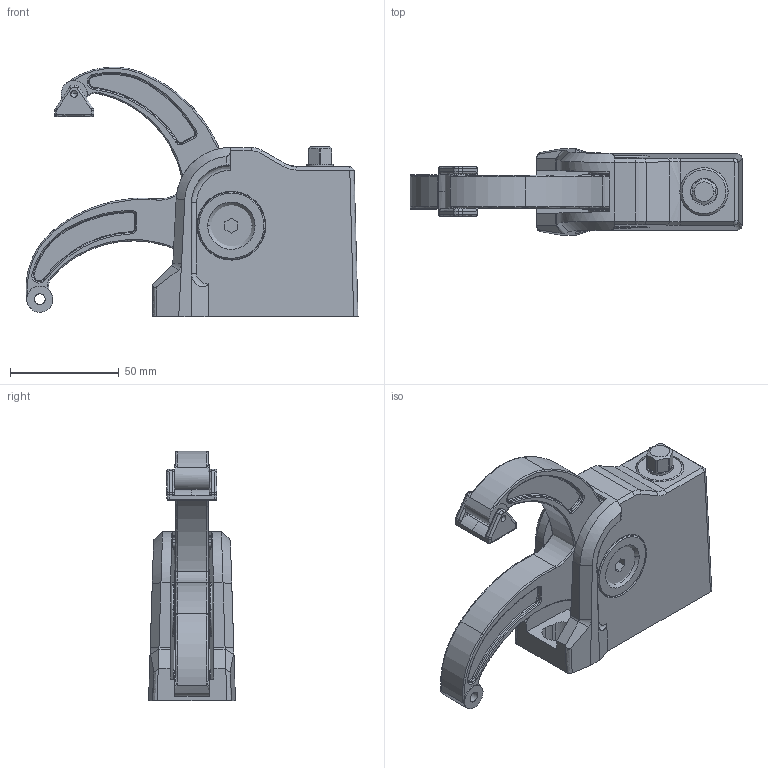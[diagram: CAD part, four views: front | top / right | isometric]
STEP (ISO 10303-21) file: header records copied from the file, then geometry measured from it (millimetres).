
FILE_DESCRIPTION( ( 'STEP AP214' ), '1' );
FILE_NAME( 'O:/CAD_Daten_Platzhalter/BAS u BSP/BAS-CB10-6/BAS-CB10-6.stp', ' ', ( ' ' ), ( ' ' ), 'PSStep 11.0', ' ', ' ' );
FILE_SCHEMA( ( 'AUTOMOTIVE_DESIGN { 1 0 10303 214 1 1 1 1 }' ) );
Length unit declared in the file: metre
Products named in the file (10): 1; 2; 3; 4; 5; 6; 7; 8; 9; 10
Bounding box: 152.89 x 40 x 115.02 mm (x, y, z)
Volume: 241259.9 mm3; surface area: 77172.8 mm2
Topology: 10 solids, 10 shells, 546 faces, 1273 edges, 751 vertices
Faces by surface type: bspline 546
Entity records: 31879 total; most frequent: CARTESIAN_POINT 20190, ORIENTED_EDGE 2514, EDGE_CURVE 1257, VERTEX_POINT 751, B_SPLINE_CURVE_WITH_KNOTS 742, EDGE_LOOP 592, STYLED_ITEM 546, PRESENTATION_STYLE_ASSIGNMENT 546
